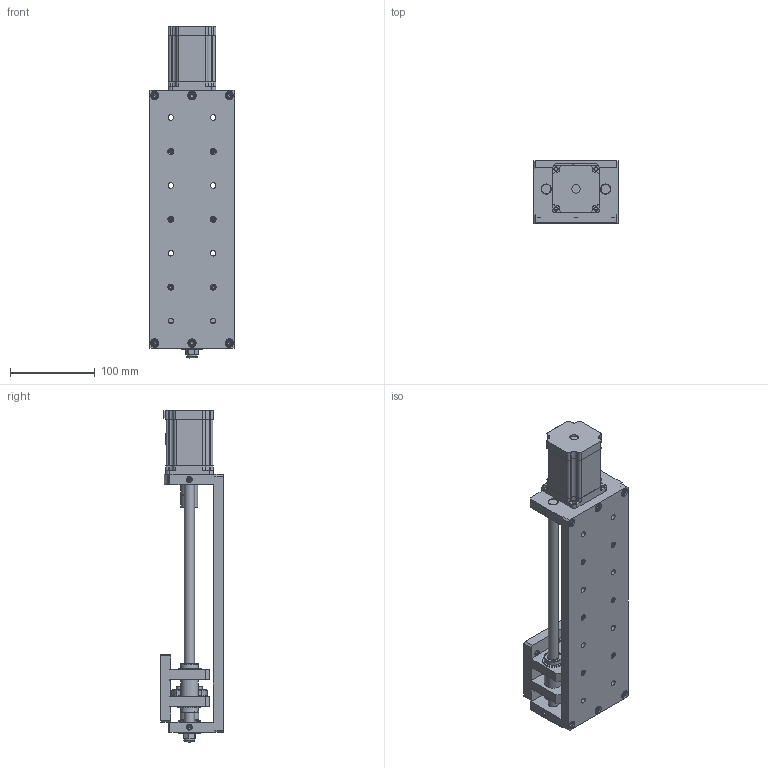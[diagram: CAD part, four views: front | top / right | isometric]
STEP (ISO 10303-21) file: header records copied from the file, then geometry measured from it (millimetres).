
FILE_DESCRIPTION(('STEP AP203'), '1');
FILE_NAME('PLLM-01-200 - ìîäóëü ëèíåéíîãî ïåðåìåùåíèÿ', '2022-05-04T13:01:17', (''), (''), 'ASCON STEP Converter 1.6', 'ASCON Math Kernel', '');
FILE_SCHEMA(('CONFIG_CONTROL_DESIGN'));
Length unit declared in the file: millimetre
Products named in the file (1): PLLM-01-200-000 СБ
Bounding box: 100 x 74 x 391.5 mm (x, y, z)
Volume: 998493.2 mm3; surface area: 204953.1 mm2
Topology: 15 solids, 15 shells, 1783 faces, 4513 edges, 2891 vertices
Faces by surface type: plane 886, cylinder 692, cone 179, sphere 14, torus 12
Full cylindrical faces by diameter (mm): 2 x8, 2.459 x2, 2.5 x2, 3 x6, 3.5 x2, 4 x11, 4.134 x4, 4.5 x2, 4.917 x20, 5 x1, 5.1 x4, 5.5 x2, 5.8 x2, 6.5 x8, 7 x4, 8 x4, 8.5 x10, 10 x11, 10.8 x4, 11 x4, 12 x17, 13 x6, 16 x2, 19.07 x8, 20 x8, 21 x6, 22 x2, 25 x2, 30 x1, 38.1 x1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
Entity records: 71127 total; most frequent: CARTESIAN_POINT 14255, DIRECTION 9268, ORIENTED_EDGE 8198, EDGE_CURVE 4099, AXIS2_PLACEMENT_3D 3546, VERTEX_POINT 2825, EDGE_LOOP 2324, LINE 2176
